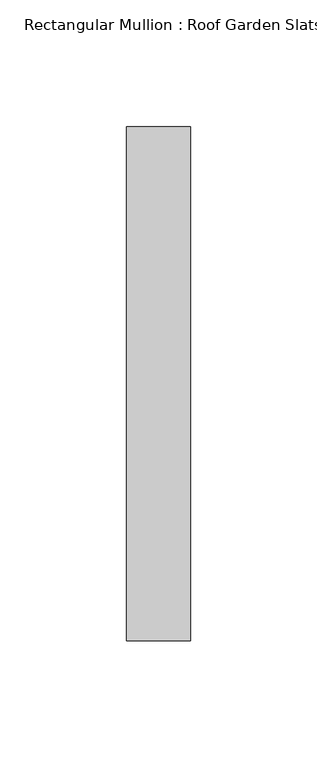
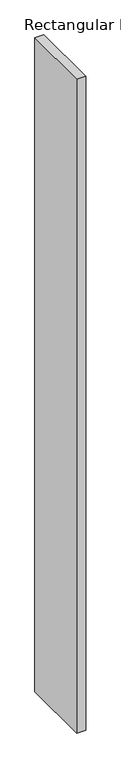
"""IFC4 building model written with IfcOpenShell, lengths in millimetres: member geometry, Rectangular Mullion : Roof Garden Slats."""

from ifc_helpers import new_model, si_unit, frame, origin, place, context, project, spatial, polyline, outline, extrude, source, transform, mapped, element, save


def rectangular_mullion_roof_garden_slats_306b6f16(model_context):
    return source(origin(), model_context, "Body", "SweptSolid", [
        extrude(outline(polyline([(12.7, 139.7), (12.7, -63.5), (-12.7, -63.5), (-12.7, 139.7), (12.7, 139.7)])), frame((0.0, 0.0, -1940.2105866), z_axis=(0.0, 0.0, 1.0), x_axis=(1.0, 0.0, 0.0)), (0.0, 0.0, 1.0), 1940.2105866),
    ])


if __name__ == "__main__":
    model = new_model("IFC4")
    model_context = context("Model", 3, world=origin())
    ifc_project = project(units=[si_unit("LENGTHUNIT", "METRE", prefix="MILLI")], contexts=[model_context])
    site = spatial("IfcSite", under=ifc_project)
    building = spatial("IfcBuilding", under=site)
    placement = place(None, origin())
    rectangular_mullion_roof_garden_slats_shape = rectangular_mullion_roof_garden_slats_306b6f16(model_context)
    element("IfcMember", 1, ObjectType="Rectangular Mullion : Roof Garden Slats", at=placement, inside=building, context=model_context, shape_type="MappedRepresentation", body=[
        mapped(rectangular_mullion_roof_garden_slats_shape, transform((0.0, 0.0, 0.0), x_axis=(1.0, 0.0, 0.0), y_axis=(0.0, 1.0, 0.0), z_axis=(0.0, 0.0, 1.0))),
    ])
    save(model, "model.ifc")
